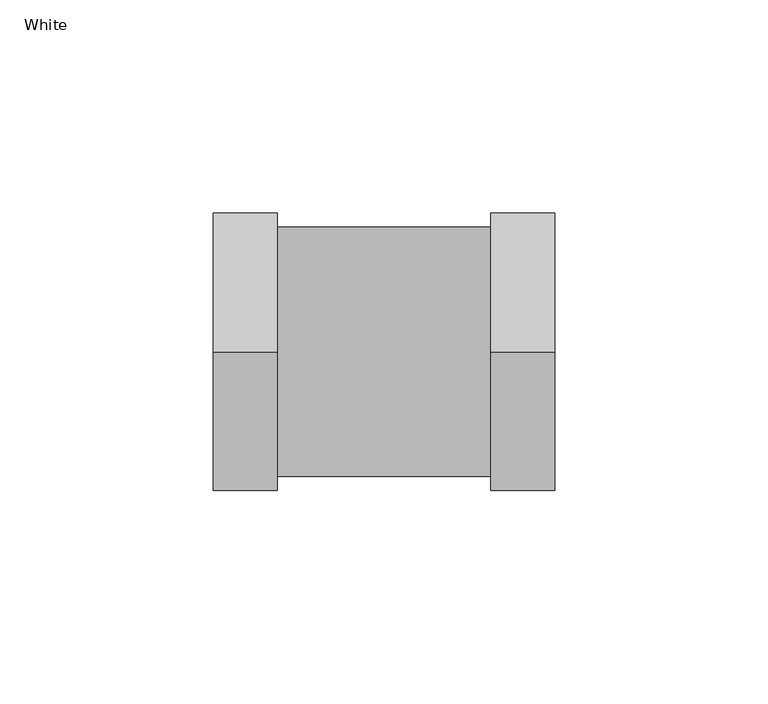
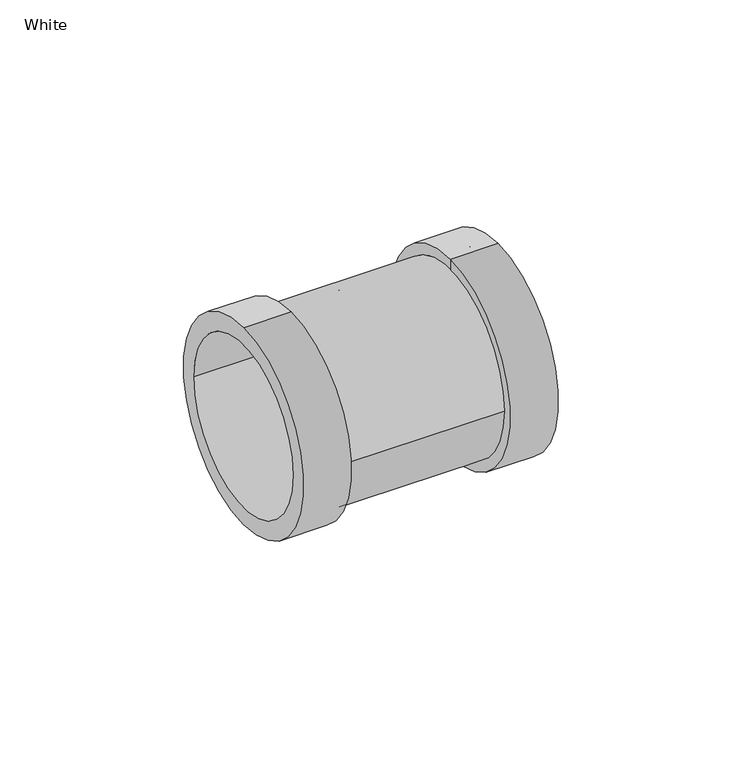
"""IFC4 building model written with IfcOpenShell, lengths in millimetres: pipe fitting geometry, Wavin_PipeFitting_OsmaWasteZDoNotUsePpSSocketDouble : White."""

from ifc_helpers import new_model, si_unit, frame, origin, place, context, project, spatial, polyline, circle_curve, source, transform, mapped, element, save
from ifc_brep_helpers import plane_surface, cylinder_surface, revolved_surface, advanced_brep


def white_4b2a9edb(model_context):
    return source(origin(), model_context, "Body", "AdvancedBrep", [
        advanced_brep(
        [(-39.0, 0.0, 32.7), (-39.0, 0.0, -32.7), (-39.0, -26.95, 0.0), (-39.0, 26.95, 0.0), (0.0, -26.95, 0.0), (0.0, 26.95, 0.0), (0.0, 0.0, 0.0), (2.0, -26.95, 0.0), (2.0, 26.95, 0.0), (2.0, 0.0, 0.0), (41.0, -26.95, 0.0), (41.0, 26.95, 0.0), (41.0, 0.0, -32.7), (41.0, 0.0, 32.7), (-24.0, 29.25, 0.0), (26.0, 29.25, 0.0), (26.0, 0.0, -29.25), (26.0, -29.25, 0.0), (-24.0, -29.25, 0.0), (-24.0, 0.0, -29.25), (-24.0, 0.0, 29.25), (26.0, 0.0, 29.25), (-24.0, 0.0, -32.7), (-24.0, 0.0, 32.7), (26.0, 0.0, -32.7), (26.0, 0.0, 32.7)],
        [
            (0, 1, circle_curve(frame((-39.0, 0.0, 0.0), z_axis=(-1.0, 0.0, 0.0), x_axis=(0.0, 0.0, 1.0)), 32.7)),
            (1, 0, circle_curve(frame((-39.0, 0.0, 0.0), z_axis=(-1.0, 0.0, 0.0), x_axis=(0.0, 0.0, 1.0)), 32.7)),
            (2, 3, circle_curve(frame((-39.0, 0.0, 0.0), z_axis=(1.0, 0.0, 0.0), x_axis=(0.0, 1.0, 0.0)), 26.95)),
            (3, 2, circle_curve(frame((-39.0, 0.0, 0.0), z_axis=(1.0, 0.0, 0.0), x_axis=(0.0, 1.0, 0.0)), 26.95)),
            (2, 4),
            (4, 5, circle_curve(frame((0.0, 0.0, 0.0), z_axis=(1.0, 0.0, 0.0), x_axis=(0.0, 1.0, 0.0)), 26.95)),
            (5, 3),
            (5, 4, circle_curve(frame((0.0, 0.0, 0.0), z_axis=(1.0, 0.0, 0.0), x_axis=(0.0, 1.0, 0.0)), 26.95)),
            (4, 6),
            (6, 5),
            (7, 8, circle_curve(frame((2.0, 0.0, 0.0), z_axis=(1.0, 0.0, 0.0), x_axis=(0.0, 1.0, 0.0)), 26.95)),
            (8, 9),
            (9, 7),
            (8, 7, circle_curve(frame((2.0, 0.0, 0.0), z_axis=(1.0, 0.0, 0.0), x_axis=(0.0, 1.0, 0.0)), 26.95)),
            (7, 10),
            (10, 11, circle_curve(frame((41.0, 0.0, 0.0), z_axis=(1.0, 0.0, 0.0), x_axis=(0.0, 1.0, 0.0)), 26.95)),
            (11, 8),
            (11, 10, circle_curve(frame((41.0, 0.0, 0.0), z_axis=(1.0, 0.0, 0.0), x_axis=(0.0, 1.0, 0.0)), 26.95)),
            (12, 13, circle_curve(frame((41.0, 0.0, 0.0), z_axis=(1.0, 0.0, 0.0), x_axis=(0.0, 0.0, 1.0)), 32.7)),
            (13, 12, circle_curve(frame((41.0, 0.0, 0.0), z_axis=(1.0, 0.0, 0.0), x_axis=(0.0, 0.0, 1.0)), 32.7)),
            (14, 15),
            (15, 16, circle_curve(frame((26.0, 0.0, 0.0), z_axis=(-1.0, 0.0, 0.0), x_axis=(0.0, 1.0, 0.0)), 29.25)),
            (16, 17, circle_curve(frame((26.0, 0.0, 0.0), z_axis=(-1.0, 0.0, 0.0), x_axis=(0.0, 1.0, 0.0)), 29.25)),
            (17, 18),
            (18, 19, circle_curve(frame((-24.0, 0.0, 0.0), z_axis=(1.0, 0.0, 0.0), x_axis=(0.0, 1.0, 0.0)), 29.25)),
            (19, 14, circle_curve(frame((-24.0, 0.0, 0.0), z_axis=(1.0, 0.0, 0.0), x_axis=(0.0, 1.0, 0.0)), 29.25)),
            (14, 20, circle_curve(frame((-24.0, 0.0, 0.0), z_axis=(1.0, 0.0, 0.0), x_axis=(0.0, 1.0, 0.0)), 29.25)),
            (20, 18, circle_curve(frame((-24.0, 0.0, 0.0), z_axis=(1.0, 0.0, 0.0), x_axis=(0.0, 1.0, 0.0)), 29.25)),
            (17, 21, circle_curve(frame((26.0, 0.0, 0.0), z_axis=(-1.0, 0.0, 0.0), x_axis=(0.0, 1.0, 0.0)), 29.25)),
            (21, 15, circle_curve(frame((26.0, 0.0, 0.0), z_axis=(-1.0, 0.0, 0.0), x_axis=(0.0, 1.0, 0.0)), 29.25)),
            (22, 23, circle_curve(frame((-24.0, 0.0, 0.0), z_axis=(1.0, 0.0, 0.0), x_axis=(0.0, 0.0, 1.0)), 32.7)),
            (23, 20),
            (19, 22),
            (23, 22, circle_curve(frame((-24.0, 0.0, 0.0), z_axis=(1.0, 0.0, 0.0), x_axis=(0.0, 0.0, 1.0)), 32.7)),
            (22, 1),
            (0, 23),
            (12, 24),
            (24, 25, circle_curve(frame((26.0, 0.0, 0.0), z_axis=(1.0, 0.0, 0.0), x_axis=(0.0, 0.0, 1.0)), 32.7)),
            (25, 13),
            (25, 24, circle_curve(frame((26.0, 0.0, 0.0), z_axis=(1.0, 0.0, 0.0), x_axis=(0.0, 0.0, 1.0)), 32.7)),
            (24, 16),
            (21, 25),
        ],
        [
            plane_surface(frame((-39.0, 0.0, 0.0), z_axis=(-1.0, 0.0, 0.0), x_axis=(0.0, 1.0, 0.0))),
            revolved_surface(polyline([(-39.0, 26.95, 0.0), (0.0, 26.95, 0.0)]), (1969.25, 0.0, 0.0), (-1.0, 0.0, 0.0)),
            plane_surface(frame((0.0, 0.0, 0.0), z_axis=(-1.0, 0.0, 0.0), x_axis=(0.0, 1.0, 0.0))),
            plane_surface(frame((2.0, 0.0, 0.0), z_axis=(1.0, 0.0, 0.0), x_axis=(0.0, 1.0, 0.0))),
            revolved_surface(polyline([(2.0, 26.95, 0.0), (41.0, 26.95, 0.0)]), (1969.25, 0.0, 0.0), (-1.0, 0.0, 0.0)),
            plane_surface(frame((41.0, 0.0, 0.0), z_axis=(1.0, 0.0, 0.0), x_axis=(0.0, 1.0, 0.0))),
            cylinder_surface(frame((1969.25, 0.0, 0.0), z_axis=(-1.0, 0.0, 0.0), x_axis=(0.0, 1.0, 0.0)), 29.25),
            plane_surface(frame((-24.0, 0.0, 0.0), z_axis=(1.0, 0.0, 0.0), x_axis=(0.0, 0.0, 1.0))),
            cylinder_surface(frame((-299.0, 0.0, 0.0), z_axis=(-1.0, 0.0, 0.0), x_axis=(0.0, 0.0, 1.0)), 32.7),
            plane_surface(frame((26.0, 0.0, 0.0), z_axis=(-1.0, 0.0, 0.0), x_axis=(0.0, 0.0, 1.0))),
        ],
        [
            (0, [[1, 2], [3, 4]]),
            (1, [[-3, 5, 6, 7]]),
            (1, [[-4, -7, 8, -5]]),
            (2, [[-6, 9, 10]]),
            (2, [[-8, -10, -9]]),
            (3, [[11, 12, 13]]),
            (3, [[-12, 14, -13]]),
            (4, [[-11, 15, 16, 17]]),
            (4, [[-14, -17, 18, -15]]),
            (5, [[19, 20], [-16, -18]]),
            (6, [[21, 22, 23, 24, 25, 26]]),
            (6, [[-21, 27, 28, -24, 29, 30]]),
            (7, [[31, 32, -27, -26, 33]]),
            (7, [[-32, 34, -33, -25, -28]]),
            (8, [[-31, 35, -1, 36]]),
            (8, [[-34, -36, -2, -35]]),
            (8, [[-19, 37, 38, 39]]),
            (8, [[-20, -39, 40, -37]]),
            (9, [[-38, 41, -22, -30, 42]]),
            (9, [[-40, -42, -29, -23, -41]]),
        ],
    ),
    ])


if __name__ == "__main__":
    model = new_model("IFC4")
    model_context = context("Model", 3, world=origin())
    ifc_project = project(units=[si_unit("LENGTHUNIT", "METRE", prefix="MILLI")], contexts=[model_context])
    site = spatial("IfcSite", under=ifc_project)
    building = spatial("IfcBuilding", under=site)
    placement = place(None, origin())
    white_shape = white_4b2a9edb(model_context)
    element("IfcPipeFitting", 1, ObjectType="Wavin_PipeFitting_OsmaWasteZDoNotUsePpSSocketDouble : White", at=placement, inside=building, context=model_context, shape_type="MappedRepresentation", body=[
        mapped(white_shape, transform((0.0, 0.0, 0.0), x_axis=(1.0, 0.0, 0.0), y_axis=(0.0, 1.0, 0.0), z_axis=(0.0, 0.0, 1.0))),
    ])
    save(model, "model.ifc")
